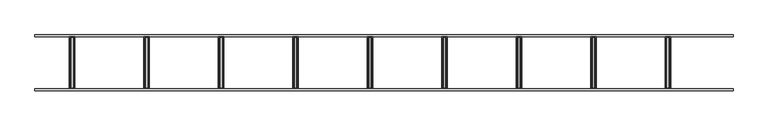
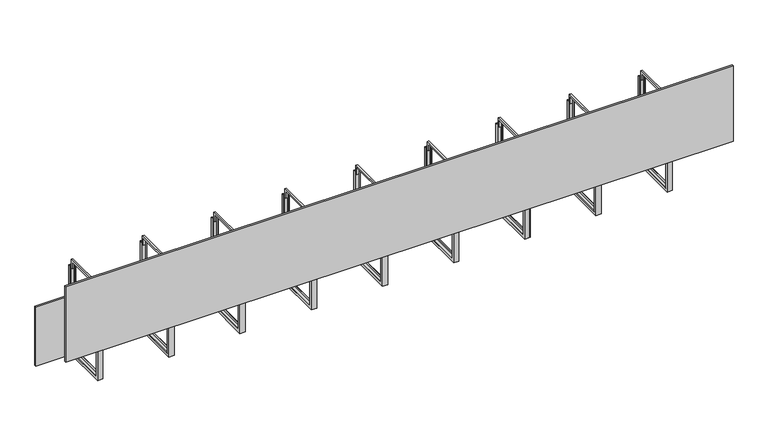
"""IFC4 building model written with IfcOpenShell, lengths in millimetres: proxy geometry, Betobeam SV : -."""

from ifc_helpers import new_model, si_unit, frame, origin, place, context, project, spatial, polyline, outline, extrude, faceted_brep, source, transform, mapped, element, save


def generic_models_4c34a69a(model_context):
    return source(origin(), model_context, "Body", "SolidModel", [
        extrude(outline(polyline([(285.0, 570.0), (285.0, 520.0), (275.0, 520.0), (275.0, 560.0), (25.0, 560.0), (25.0, 520.0), (15.0, 520.0), (15.0, 570.0), (285.0, 570.0)])), frame((3395.0, 0.0, 0.0), z_axis=(1.0, 0.0, 0.0), x_axis=(0.0, 1.0, 0.0)), (0.0, 0.0, 1.0), 10.0),
        faceted_brep([(3385.0, 290.0, 540.0), (3385.0, 275.0, 540.0), (3387.0, 275.0, 540.0), (3387.0, 288.0, 540.0), (3413.0, 288.0, 540.0), (3413.0, 275.0, 540.0), (3415.0, 275.0, 540.0), (3415.0, 290.0, 540.0), (3385.0, 290.0, 20.0), (3385.0, 10.0, 20.0), (3385.0, 10.0, 540.0), (3385.0, 25.0, 540.0), (3385.0, 25.0, 35.0), (3385.0, 275.0, 35.0), (3387.0, 275.0, 35.0), (3387.0, 25.0, 35.0), (3387.0, 25.0, 540.0), (3387.0, 12.0, 540.0), (3387.0, 12.0, 22.0), (3387.0, 288.0, 22.0), (3413.0, 288.0, 22.0), (3413.0, 12.0, 22.0), (3413.0, 12.0, 540.0), (3413.0, 25.0, 540.0), (3413.0, 25.0, 35.0), (3413.0, 275.0, 35.0), (3415.0, 275.0, 35.0), (3415.0, 25.0, 35.0), (3415.0, 25.0, 540.0), (3415.0, 10.0, 540.0), (3415.0, 10.0, 20.0), (3415.0, 290.0, 20.0)], [[[0, 1, 2, 3, 4, 5, 6, 7]], [[1, 0, 8, 9, 10, 11, 12, 13]], [[2, 1, 13, 14]], [[3, 2, 14, 15, 16, 17, 18, 19]], [[4, 3, 19, 20]], [[5, 4, 20, 21, 22, 23, 24, 25]], [[6, 5, 25, 26]], [[7, 6, 26, 27, 28, 29, 30, 31]], [[0, 7, 31, 8]], [[14, 13, 12, 15]], [[20, 19, 18, 21]], [[26, 25, 24, 27]], [[8, 31, 30, 9]], [[10, 29, 28, 23, 22, 17, 16, 11]], [[15, 12, 11, 16]], [[21, 18, 17, 22]], [[27, 24, 23, 28]], [[9, 30, 29, 10]]]),
        extrude(outline(polyline([(285.0, 570.0), (285.0, 520.0), (275.0, 520.0), (275.0, 560.0), (25.0, 560.0), (25.0, 520.0), (15.0, 520.0), (15.0, 570.0), (285.0, 570.0)])), frame((2995.0, 0.0, 0.0), z_axis=(1.0, 0.0, 0.0), x_axis=(0.0, 1.0, 0.0)), (0.0, 0.0, 1.0), 10.0),
        faceted_brep([(2985.0, 290.0, 540.0), (2985.0, 275.0, 540.0), (2987.0, 275.0, 540.0), (2987.0, 288.0, 540.0), (3013.0, 288.0, 540.0), (3013.0, 275.0, 540.0), (3015.0, 275.0, 540.0), (3015.0, 290.0, 540.0), (2985.0, 290.0, 20.0), (2985.0, 10.0, 20.0), (2985.0, 10.0, 540.0), (2985.0, 25.0, 540.0), (2985.0, 25.0, 35.0), (2985.0, 275.0, 35.0), (2987.0, 275.0, 35.0), (2987.0, 25.0, 35.0), (2987.0, 25.0, 540.0), (2987.0, 12.0, 540.0), (2987.0, 12.0, 22.0), (2987.0, 288.0, 22.0), (3013.0, 288.0, 22.0), (3013.0, 12.0, 22.0), (3013.0, 12.0, 540.0), (3013.0, 25.0, 540.0), (3013.0, 25.0, 35.0), (3013.0, 275.0, 35.0), (3015.0, 275.0, 35.0), (3015.0, 25.0, 35.0), (3015.0, 25.0, 540.0), (3015.0, 10.0, 540.0), (3015.0, 10.0, 20.0), (3015.0, 290.0, 20.0)], [[[0, 1, 2, 3, 4, 5, 6, 7]], [[1, 0, 8, 9, 10, 11, 12, 13]], [[2, 1, 13, 14]], [[3, 2, 14, 15, 16, 17, 18, 19]], [[4, 3, 19, 20]], [[5, 4, 20, 21, 22, 23, 24, 25]], [[6, 5, 25, 26]], [[7, 6, 26, 27, 28, 29, 30, 31]], [[0, 7, 31, 8]], [[14, 13, 12, 15]], [[20, 19, 18, 21]], [[26, 25, 24, 27]], [[8, 31, 30, 9]], [[10, 29, 28, 23, 22, 17, 16, 11]], [[15, 12, 11, 16]], [[21, 18, 17, 22]], [[27, 24, 23, 28]], [[9, 30, 29, 10]]]),
        extrude(outline(polyline([(285.0, 570.0), (285.0, 520.0), (275.0, 520.0), (275.0, 560.0), (25.0, 560.0), (25.0, 520.0), (15.0, 520.0), (15.0, 570.0), (285.0, 570.0)])), frame((2595.0, 0.0, 0.0), z_axis=(1.0, 0.0, 0.0), x_axis=(0.0, 1.0, 0.0)), (0.0, 0.0, 1.0), 10.0),
        faceted_brep([(2585.0, 290.0, 540.0), (2585.0, 275.0, 540.0), (2587.0, 275.0, 540.0), (2587.0, 288.0, 540.0), (2613.0, 288.0, 540.0), (2613.0, 275.0, 540.0), (2615.0, 275.0, 540.0), (2615.0, 290.0, 540.0), (2585.0, 290.0, 20.0), (2585.0, 10.0, 20.0), (2585.0, 10.0, 540.0), (2585.0, 25.0, 540.0), (2585.0, 25.0, 35.0), (2585.0, 275.0, 35.0), (2587.0, 275.0, 35.0), (2587.0, 25.0, 35.0), (2587.0, 25.0, 540.0), (2587.0, 12.0, 540.0), (2587.0, 12.0, 22.0), (2587.0, 288.0, 22.0), (2613.0, 288.0, 22.0), (2613.0, 12.0, 22.0), (2613.0, 12.0, 540.0), (2613.0, 25.0, 540.0), (2613.0, 25.0, 35.0), (2613.0, 275.0, 35.0), (2615.0, 275.0, 35.0), (2615.0, 25.0, 35.0), (2615.0, 25.0, 540.0), (2615.0, 10.0, 540.0), (2615.0, 10.0, 20.0), (2615.0, 290.0, 20.0)], [[[0, 1, 2, 3, 4, 5, 6, 7]], [[1, 0, 8, 9, 10, 11, 12, 13]], [[2, 1, 13, 14]], [[3, 2, 14, 15, 16, 17, 18, 19]], [[4, 3, 19, 20]], [[5, 4, 20, 21, 22, 23, 24, 25]], [[6, 5, 25, 26]], [[7, 6, 26, 27, 28, 29, 30, 31]], [[0, 7, 31, 8]], [[14, 13, 12, 15]], [[20, 19, 18, 21]], [[26, 25, 24, 27]], [[8, 31, 30, 9]], [[10, 29, 28, 23, 22, 17, 16, 11]], [[15, 12, 11, 16]], [[21, 18, 17, 22]], [[27, 24, 23, 28]], [[9, 30, 29, 10]]]),
        extrude(outline(polyline([(285.0, 570.0), (285.0, 520.0), (275.0, 520.0), (275.0, 560.0), (25.0, 560.0), (25.0, 520.0), (15.0, 520.0), (15.0, 570.0), (285.0, 570.0)])), frame((2195.0, 0.0, 0.0), z_axis=(1.0, 0.0, 0.0), x_axis=(0.0, 1.0, 0.0)), (0.0, 0.0, 1.0), 10.0),
        faceted_brep([(2185.0, 290.0, 540.0), (2185.0, 275.0, 540.0), (2187.0, 275.0, 540.0), (2187.0, 288.0, 540.0), (2213.0, 288.0, 540.0), (2213.0, 275.0, 540.0), (2215.0, 275.0, 540.0), (2215.0, 290.0, 540.0), (2185.0, 290.0, 20.0), (2185.0, 10.0, 20.0), (2185.0, 10.0, 540.0), (2185.0, 25.0, 540.0), (2185.0, 25.0, 35.0), (2185.0, 275.0, 35.0), (2187.0, 275.0, 35.0), (2187.0, 25.0, 35.0), (2187.0, 25.0, 540.0), (2187.0, 12.0, 540.0), (2187.0, 12.0, 22.0), (2187.0, 288.0, 22.0), (2213.0, 288.0, 22.0), (2213.0, 12.0, 22.0), (2213.0, 12.0, 540.0), (2213.0, 25.0, 540.0), (2213.0, 25.0, 35.0), (2213.0, 275.0, 35.0), (2215.0, 275.0, 35.0), (2215.0, 25.0, 35.0), (2215.0, 25.0, 540.0), (2215.0, 10.0, 540.0), (2215.0, 10.0, 20.0), (2215.0, 290.0, 20.0)], [[[0, 1, 2, 3, 4, 5, 6, 7]], [[1, 0, 8, 9, 10, 11, 12, 13]], [[2, 1, 13, 14]], [[3, 2, 14, 15, 16, 17, 18, 19]], [[4, 3, 19, 20]], [[5, 4, 20, 21, 22, 23, 24, 25]], [[6, 5, 25, 26]], [[7, 6, 26, 27, 28, 29, 30, 31]], [[0, 7, 31, 8]], [[14, 13, 12, 15]], [[20, 19, 18, 21]], [[26, 25, 24, 27]], [[8, 31, 30, 9]], [[10, 29, 28, 23, 22, 17, 16, 11]], [[15, 12, 11, 16]], [[21, 18, 17, 22]], [[27, 24, 23, 28]], [[9, 30, 29, 10]]]),
        extrude(outline(polyline([(285.0, 570.0), (285.0, 520.0), (275.0, 520.0), (275.0, 560.0), (25.0, 560.0), (25.0, 520.0), (15.0, 520.0), (15.0, 570.0), (285.0, 570.0)])), frame((1795.0, 0.0, 0.0), z_axis=(1.0, 0.0, 0.0), x_axis=(0.0, 1.0, 0.0)), (0.0, 0.0, 1.0), 10.0),
        faceted_brep([(1785.0, 290.0, 540.0), (1785.0, 275.0, 540.0), (1787.0, 275.0, 540.0), (1787.0, 288.0, 540.0), (1813.0, 288.0, 540.0), (1813.0, 275.0, 540.0), (1815.0, 275.0, 540.0), (1815.0, 290.0, 540.0), (1785.0, 290.0, 20.0), (1785.0, 10.0, 20.0), (1785.0, 10.0, 540.0), (1785.0, 25.0, 540.0), (1785.0, 25.0, 35.0), (1785.0, 275.0, 35.0), (1787.0, 275.0, 35.0), (1787.0, 25.0, 35.0), (1787.0, 25.0, 540.0), (1787.0, 12.0, 540.0), (1787.0, 12.0, 22.0), (1787.0, 288.0, 22.0), (1813.0, 288.0, 22.0), (1813.0, 12.0, 22.0), (1813.0, 12.0, 540.0), (1813.0, 25.0, 540.0), (1813.0, 25.0, 35.0), (1813.0, 275.0, 35.0), (1815.0, 275.0, 35.0), (1815.0, 25.0, 35.0), (1815.0, 25.0, 540.0), (1815.0, 10.0, 540.0), (1815.0, 10.0, 20.0), (1815.0, 290.0, 20.0)], [[[0, 1, 2, 3, 4, 5, 6, 7]], [[1, 0, 8, 9, 10, 11, 12, 13]], [[2, 1, 13, 14]], [[3, 2, 14, 15, 16, 17, 18, 19]], [[4, 3, 19, 20]], [[5, 4, 20, 21, 22, 23, 24, 25]], [[6, 5, 25, 26]], [[7, 6, 26, 27, 28, 29, 30, 31]], [[0, 7, 31, 8]], [[14, 13, 12, 15]], [[20, 19, 18, 21]], [[26, 25, 24, 27]], [[8, 31, 30, 9]], [[10, 29, 28, 23, 22, 17, 16, 11]], [[15, 12, 11, 16]], [[21, 18, 17, 22]], [[27, 24, 23, 28]], [[9, 30, 29, 10]]]),
        extrude(outline(polyline([(285.0, 570.0), (285.0, 520.0), (275.0, 520.0), (275.0, 560.0), (25.0, 560.0), (25.0, 520.0), (15.0, 520.0), (15.0, 570.0), (285.0, 570.0)])), frame((1395.0, 0.0, 0.0), z_axis=(1.0, 0.0, 0.0), x_axis=(0.0, 1.0, 0.0)), (0.0, 0.0, 1.0), 10.0),
        faceted_brep([(1385.0, 290.0, 540.0), (1385.0, 275.0, 540.0), (1387.0, 275.0, 540.0), (1387.0, 288.0, 540.0), (1413.0, 288.0, 540.0), (1413.0, 275.0, 540.0), (1415.0, 275.0, 540.0), (1415.0, 290.0, 540.0), (1385.0, 290.0, 20.0), (1385.0, 10.0, 20.0), (1385.0, 10.0, 540.0), (1385.0, 25.0, 540.0), (1385.0, 25.0, 35.0), (1385.0, 275.0, 35.0), (1387.0, 275.0, 35.0), (1387.0, 25.0, 35.0), (1387.0, 25.0, 540.0), (1387.0, 12.0, 540.0), (1387.0, 12.0, 22.0), (1387.0, 288.0, 22.0), (1413.0, 288.0, 22.0), (1413.0, 12.0, 22.0), (1413.0, 12.0, 540.0), (1413.0, 25.0, 540.0), (1413.0, 25.0, 35.0), (1413.0, 275.0, 35.0), (1415.0, 275.0, 35.0), (1415.0, 25.0, 35.0), (1415.0, 25.0, 540.0), (1415.0, 10.0, 540.0), (1415.0, 10.0, 20.0), (1415.0, 290.0, 20.0)], [[[0, 1, 2, 3, 4, 5, 6, 7]], [[1, 0, 8, 9, 10, 11, 12, 13]], [[2, 1, 13, 14]], [[3, 2, 14, 15, 16, 17, 18, 19]], [[4, 3, 19, 20]], [[5, 4, 20, 21, 22, 23, 24, 25]], [[6, 5, 25, 26]], [[7, 6, 26, 27, 28, 29, 30, 31]], [[0, 7, 31, 8]], [[14, 13, 12, 15]], [[20, 19, 18, 21]], [[26, 25, 24, 27]], [[8, 31, 30, 9]], [[10, 29, 28, 23, 22, 17, 16, 11]], [[15, 12, 11, 16]], [[21, 18, 17, 22]], [[27, 24, 23, 28]], [[9, 30, 29, 10]]]),
        extrude(outline(polyline([(285.0, 570.0), (285.0, 520.0), (275.0, 520.0), (275.0, 560.0), (25.0, 560.0), (25.0, 520.0), (15.0, 520.0), (15.0, 570.0), (285.0, 570.0)])), frame((995.0, 0.0, 0.0), z_axis=(1.0, 0.0, 0.0), x_axis=(0.0, 1.0, 0.0)), (0.0, 0.0, 1.0), 10.0),
        faceted_brep([(985.0, 290.0, 540.0), (985.0, 275.0, 540.0), (987.0, 275.0, 540.0), (987.0, 288.0, 540.0), (1013.0, 288.0, 540.0), (1013.0, 275.0, 540.0), (1015.0, 275.0, 540.0), (1015.0, 290.0, 540.0), (985.0, 290.0, 20.0), (985.0, 10.0, 20.0), (985.0, 10.0, 540.0), (985.0, 25.0, 540.0), (985.0, 25.0, 35.0), (985.0, 275.0, 35.0), (987.0, 275.0, 35.0), (987.0, 25.0, 35.0), (987.0, 25.0, 540.0), (987.0, 12.0, 540.0), (987.0, 12.0, 22.0), (987.0, 288.0, 22.0), (1013.0, 288.0, 22.0), (1013.0, 12.0, 22.0), (1013.0, 12.0, 540.0), (1013.0, 25.0, 540.0), (1013.0, 25.0, 35.0), (1013.0, 275.0, 35.0), (1015.0, 275.0, 35.0), (1015.0, 25.0, 35.0), (1015.0, 25.0, 540.0), (1015.0, 10.0, 540.0), (1015.0, 10.0, 20.0), (1015.0, 290.0, 20.0)], [[[0, 1, 2, 3, 4, 5, 6, 7]], [[1, 0, 8, 9, 10, 11, 12, 13]], [[2, 1, 13, 14]], [[3, 2, 14, 15, 16, 17, 18, 19]], [[4, 3, 19, 20]], [[5, 4, 20, 21, 22, 23, 24, 25]], [[6, 5, 25, 26]], [[7, 6, 26, 27, 28, 29, 30, 31]], [[0, 7, 31, 8]], [[14, 13, 12, 15]], [[20, 19, 18, 21]], [[26, 25, 24, 27]], [[8, 31, 30, 9]], [[10, 29, 28, 23, 22, 17, 16, 11]], [[15, 12, 11, 16]], [[21, 18, 17, 22]], [[27, 24, 23, 28]], [[9, 30, 29, 10]]]),
        extrude(outline(polyline([(285.0, 570.0), (285.0, 520.0), (275.0, 520.0), (275.0, 560.0), (25.0, 560.0), (25.0, 520.0), (15.0, 520.0), (15.0, 570.0), (285.0, 570.0)])), frame((595.0, 0.0, 0.0), z_axis=(1.0, 0.0, 0.0), x_axis=(0.0, 1.0, 0.0)), (0.0, 0.0, 1.0), 10.0),
        faceted_brep([(585.0, 290.0, 540.0), (585.0, 275.0, 540.0), (587.0, 275.0, 540.0), (587.0, 288.0, 540.0), (613.0, 288.0, 540.0), (613.0, 275.0, 540.0), (615.0, 275.0, 540.0), (615.0, 290.0, 540.0), (585.0, 290.0, 20.0), (585.0, 10.0, 20.0), (585.0, 10.0, 540.0), (585.0, 25.0, 540.0), (585.0, 25.0, 35.0), (585.0, 275.0, 35.0), (587.0, 275.0, 35.0), (587.0, 25.0, 35.0), (587.0, 25.0, 540.0), (587.0, 12.0, 540.0), (587.0, 12.0, 22.0), (587.0, 288.0, 22.0), (613.0, 288.0, 22.0), (613.0, 12.0, 22.0), (613.0, 12.0, 540.0), (613.0, 25.0, 540.0), (613.0, 25.0, 35.0), (613.0, 275.0, 35.0), (615.0, 275.0, 35.0), (615.0, 25.0, 35.0), (615.0, 25.0, 540.0), (615.0, 10.0, 540.0), (615.0, 10.0, 20.0), (615.0, 290.0, 20.0)], [[[0, 1, 2, 3, 4, 5, 6, 7]], [[1, 0, 8, 9, 10, 11, 12, 13]], [[2, 1, 13, 14]], [[3, 2, 14, 15, 16, 17, 18, 19]], [[4, 3, 19, 20]], [[5, 4, 20, 21, 22, 23, 24, 25]], [[6, 5, 25, 26]], [[7, 6, 26, 27, 28, 29, 30, 31]], [[0, 7, 31, 8]], [[14, 13, 12, 15]], [[20, 19, 18, 21]], [[26, 25, 24, 27]], [[8, 31, 30, 9]], [[10, 29, 28, 23, 22, 17, 16, 11]], [[15, 12, 11, 16]], [[21, 18, 17, 22]], [[27, 24, 23, 28]], [[9, 30, 29, 10]]]),
        extrude(outline(polyline([(285.0, 570.0), (285.0, 520.0), (275.0, 520.0), (275.0, 560.0), (25.0, 560.0), (25.0, 520.0), (15.0, 520.0), (15.0, 570.0), (285.0, 570.0)])), frame((195.0, 0.0, 0.0), z_axis=(1.0, 0.0, 0.0), x_axis=(0.0, 1.0, 0.0)), (0.0, 0.0, 1.0), 10.0),
        faceted_brep([(185.0, 290.0, 540.0), (185.0, 275.0, 540.0), (187.0, 275.0, 540.0), (187.0, 288.0, 540.0), (213.0, 288.0, 540.0), (213.0, 275.0, 540.0), (215.0, 275.0, 540.0), (215.0, 290.0, 540.0), (185.0, 290.0, 20.0), (185.0, 10.0, 20.0), (185.0, 10.0, 540.0), (185.0, 25.0, 540.0), (185.0, 25.0, 35.0), (185.0, 275.0, 35.0), (187.0, 275.0, 35.0), (187.0, 25.0, 35.0), (187.0, 25.0, 540.0), (187.0, 12.0, 540.0), (187.0, 12.0, 22.0), (187.0, 288.0, 22.0), (213.0, 288.0, 22.0), (213.0, 12.0, 22.0), (213.0, 12.0, 540.0), (213.0, 25.0, 540.0), (213.0, 25.0, 35.0), (213.0, 275.0, 35.0), (215.0, 275.0, 35.0), (215.0, 25.0, 35.0), (215.0, 25.0, 540.0), (215.0, 10.0, 540.0), (215.0, 10.0, 20.0), (215.0, 290.0, 20.0)], [[[0, 1, 2, 3, 4, 5, 6, 7]], [[1, 0, 8, 9, 10, 11, 12, 13]], [[2, 1, 13, 14]], [[3, 2, 14, 15, 16, 17, 18, 19]], [[4, 3, 19, 20]], [[5, 4, 20, 21, 22, 23, 24, 25]], [[6, 5, 25, 26]], [[7, 6, 26, 27, 28, 29, 30, 31]], [[0, 7, 31, 8]], [[14, 13, 12, 15]], [[20, 19, 18, 21]], [[26, 25, 24, 27]], [[8, 31, 30, 9]], [[10, 29, 28, 23, 22, 17, 16, 11]], [[15, 12, 11, 16]], [[21, 18, 17, 22]], [[27, 24, 23, 28]], [[9, 30, 29, 10]]]),
        extrude(outline(polyline([(3750.0, 10.0), (3750.0, 0.0), (0.0, 0.0), (0.0, 10.0), (3750.0, 10.0)])), frame((0.0, 0.0, 200.0), z_axis=(0.0, 0.0, 1.0), x_axis=(1.0, 0.0, 0.0)), (0.0, 0.0, 1.0), 450.0),
        extrude(outline(polyline([(0.0, -10.0), (0.0, 0.0), (3750.0, 0.0), (3750.0, -10.0), (0.0, -10.0)])), frame((3750.0, 290.0, 0.0), z_axis=(0.0, -3.8306424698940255e-12, 1.0), x_axis=(-1.0, 0.0, 0.0)), (0.0, 0.0, 1.0), 350.0),
    ])


if __name__ == "__main__":
    model = new_model("IFC4")
    model_context = context("Model", 3, world=origin())
    ifc_project = project(units=[si_unit("LENGTHUNIT", "METRE", prefix="MILLI")], contexts=[model_context])
    site = spatial("IfcSite", under=ifc_project)
    building = spatial("IfcBuilding", under=site)
    placement = place(None, origin())
    generic_models_shape = generic_models_4c34a69a(model_context)
    element("IfcBuildingElementProxy", 1, Name="Betobeam SV : -", ObjectType="Betobeam SV : -", at=placement, inside=building, context=model_context, shape_type="MappedRepresentation", body=[
        mapped(generic_models_shape, transform((0.0, 0.0, 0.0), x_axis=(1.0, 0.0, 0.0), y_axis=(0.0, 1.0, 0.0), z_axis=(0.0, 0.0, 1.0))),
    ])
    save(model, "model.ifc")
